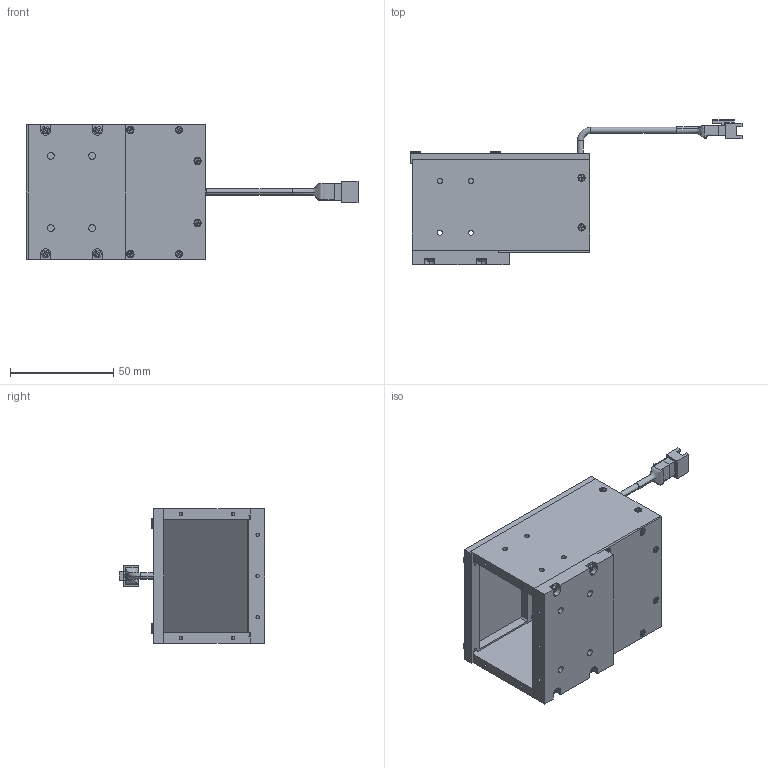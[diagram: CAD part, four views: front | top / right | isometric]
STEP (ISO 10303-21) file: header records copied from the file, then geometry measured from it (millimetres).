
FILE_DESCRIPTION (( 'STEP AP214' ), '1' );
FILE_NAME ('TMEX2010D102A_VCO-5542-RA.STEP', '2023-04-26T05:14:06', ( '' ), ( '' ), 'SwSTEP 2.0', 'SolidWorks 2018', '' );
FILE_SCHEMA (( 'AUTOMOTIVE_DESIGN' ));
Length unit declared in the file: millimetre
Products named in the file (1): TMEX2010D102A_VCO-5542-RA
Bounding box: 160.6 x 70.45 x 65 mm (x, y, z)
Surface area: 43393.9 mm2 (no closed solid volume)
Topology: 0 solids, 42 shells, 668 faces, 2108 edges, 1467 vertices
Faces by surface type: plane 472, cylinder 136, cone 44, torus 14, bspline 2
Entity records: 31566 total; most frequent: CARTESIAN_POINT 5556, DIRECTION 3827, ORIENTED_EDGE 3505, EDGE_CURVE 2108, VECTOR 1583, LINE 1583, VERTEX_POINT 1467, AXIS2_PLACEMENT_3D 1122
